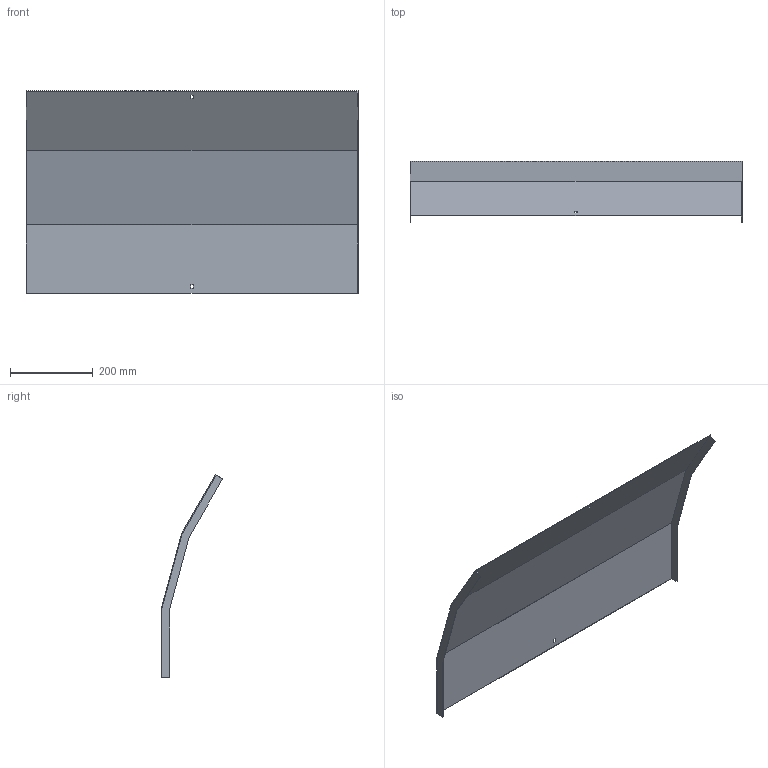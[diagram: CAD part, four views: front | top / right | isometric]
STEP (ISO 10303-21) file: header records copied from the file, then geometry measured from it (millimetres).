
FILE_DESCRIPTION (( 'STEP AP214' ), '1' );
FILE_NAME ('A2_35N3D800.step', '2025-02-21T10:31:02', ( '' ), ( '' ), 'SwSTEP 2.0', 'SolidWorks 2023', '' );
FILE_SCHEMA (( 'AUTOMOTIVE_DESIGN' ));
Length unit declared in the file: millimetre
Products named in the file (1): A2_35N3D800
Bounding box: 803 x 148.61 x 489.96 mm (x, y, z)
Volume: 652385.2 mm3; surface area: 873985.1 mm2
Topology: 1 solids, 1 shells, 26 faces, 72 edges, 48 vertices
Faces by surface type: plane 26
Entity records: 847 total; most frequent: CARTESIAN_POINT 147, ORIENTED_EDGE 144, DIRECTION 126, VECTOR 72, EDGE_CURVE 72, LINE 72, VERTEX_POINT 48, EDGE_LOOP 30
